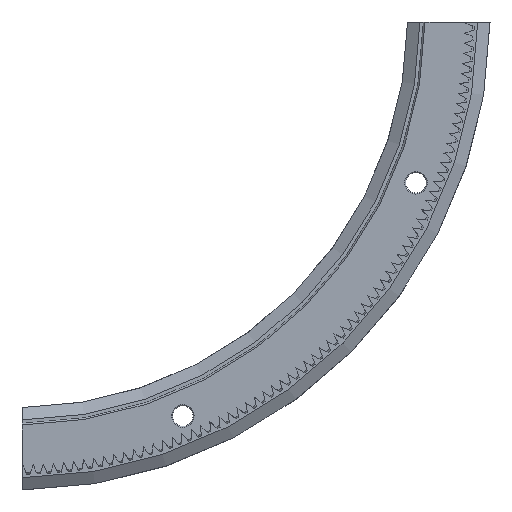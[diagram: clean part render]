
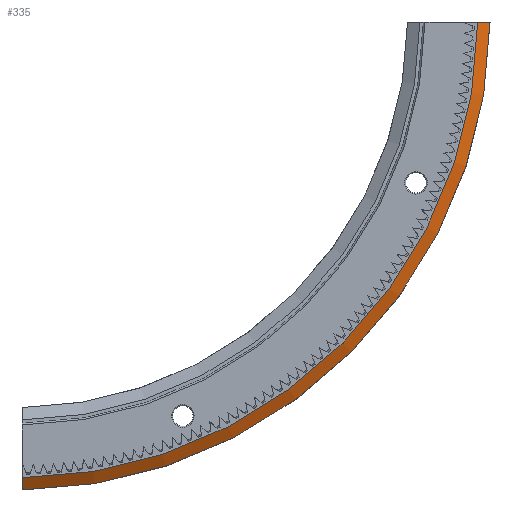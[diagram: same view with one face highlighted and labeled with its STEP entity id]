
A CAD part, front view. The second image highlights one B-rep face of the part: STEP entity #335.
In plain terms, the highlighted conical face has half-angle 55 degrees and reference radius 112.043 mm.
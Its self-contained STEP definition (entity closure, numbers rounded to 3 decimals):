
#335 = ADVANCED_FACE( '', ( #1036 ), #1037, .T. );
#1036 = FACE_OUTER_BOUND( '', #1924, .T. );
#1037 = CONICAL_SURFACE( '', #1925, 112.043, 0.96 );
#1924 = EDGE_LOOP( '', ( #4672, #4673, #4674, #4675 ) );
#1925 = AXIS2_PLACEMENT_3D( '', #4676, #4677, #4678 );
#4672 = ORIENTED_EDGE( '', *, *, #6993, .T. );
#4673 = ORIENTED_EDGE( '', *, *, #6994, .T. );
#4674 = ORIENTED_EDGE( '', *, *, #6991, .F. );
#4675 = ORIENTED_EDGE( '', *, *, #5939, .T. );
#4676 = CARTESIAN_POINT( '', ( 0., 5.8, 0. ) );
#4677 = DIRECTION( '', ( 0., 1., 0. ) );
#4678 = DIRECTION( '', ( 0., 0., 1. ) );
#5939 = EDGE_CURVE( '', #7118, #7116, #7119, .T. );
#6991 = EDGE_CURVE( '', #7118, #8863, #8864, .T. );
#6993 = EDGE_CURVE( '', #7116, #8866, #8867, .T. );
#6994 = EDGE_CURVE( '', #8866, #8863, #8868, .T. );
#7116 = VERTEX_POINT( '', #9036 );
#7118 = VERTEX_POINT( '', #9043 );
#7119 = B_SPLINE_CURVE_WITH_KNOTS( '', 3, ( #9044, #9045, #9046, #9047 ), .UNSPECIFIED., .F., .F., ( 4, 4 ), ( 0.061, 0.065 ), .UNSPECIFIED. );
#8863 = VERTEX_POINT( '', #11705 );
#8864 = CIRCLE( '', #11706, 112.043 );
#8866 = VERTEX_POINT( '', #11709 );
#8867 = CIRCLE( '', #11710, 114.974 );
#8868 = B_SPLINE_CURVE_WITH_KNOTS( '', 3, ( #11711, #11712, #11713, #11714 ), .UNSPECIFIED., .F., .F., ( 4, 4 ), ( 0.103, 0.107 ), .UNSPECIFIED. );
#9036 = CARTESIAN_POINT( '', ( 1., 7.853, -114.97 ) );
#9043 = CARTESIAN_POINT( '', ( 1., 5.8, -112.039 ) );
#9044 = CARTESIAN_POINT( '', ( 1., 5.8, -112.039 ) );
#9045 = CARTESIAN_POINT( '', ( 1., 6.484, -113.016 ) );
#9046 = CARTESIAN_POINT( '', ( 1., 7.168, -113.993 ) );
#9047 = CARTESIAN_POINT( '', ( 1., 7.853, -114.97 ) );
#11705 = CARTESIAN_POINT( '', ( 112.039, 5.8, -1. ) );
#11706 = AXIS2_PLACEMENT_3D( '', #13606, #13607, #13608 );
#11709 = CARTESIAN_POINT( '', ( 114.97, 7.853, -1. ) );
#11710 = AXIS2_PLACEMENT_3D( '', #13610, #13611, #13612 );
#11711 = CARTESIAN_POINT( '', ( 114.97, 7.853, -1. ) );
#11712 = CARTESIAN_POINT( '', ( 113.993, 7.168, -1. ) );
#11713 = CARTESIAN_POINT( '', ( 113.016, 6.484, -1. ) );
#11714 = CARTESIAN_POINT( '', ( 112.039, 5.8, -1. ) );
#13606 = CARTESIAN_POINT( '', ( 0., 5.8, 0. ) );
#13607 = DIRECTION( '', ( 0., -1., 0. ) );
#13608 = DIRECTION( '', ( 0., 0., -1. ) );
#13610 = CARTESIAN_POINT( '', ( 0., 7.853, 0. ) );
#13611 = DIRECTION( '', ( 0., -1., 0. ) );
#13612 = DIRECTION( '', ( 0., 0., -1. ) );
